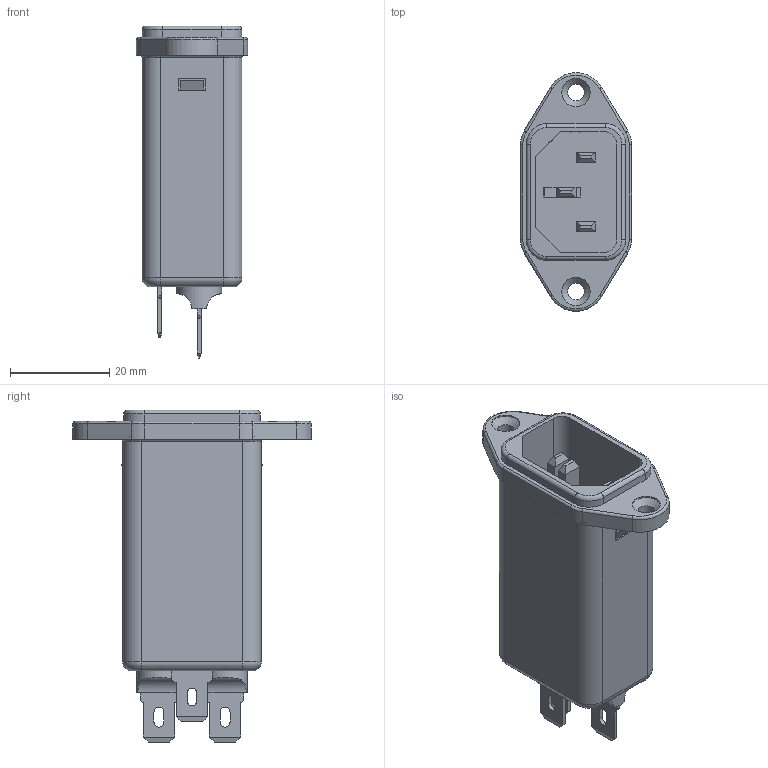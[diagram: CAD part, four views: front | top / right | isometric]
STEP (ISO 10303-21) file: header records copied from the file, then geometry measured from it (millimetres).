
FILE_DESCRIPTION((''),'2;1');
FILE_NAME('D:\_ PRODUCT\FN_PART_FOR_FN9222-XX-07\FN_UPDATE\DB_06 version_Update\3D_inventer\234-176C\FN9222EU-XX-06.stp','2012-01-13T09:41:57',('sayan.penton'),(''),'Autodesk Inventor 2010','Autodesk Inventor 2010','');
FILE_SCHEMA(('AUTOMOTIVE_DESIGN { 1 0 10303 214 1 1 1 1 }'));
Length unit declared in the file: millimetre
Products named in the file (1): Part2
Bounding box: 22.4 x 48 x 66.8 mm (x, y, z)
Volume: 8694.7 mm3; surface area: 19906.5 mm2
Topology: 1 solids, 3 shells, 560 faces, 1629 edges, 1052 vertices
Faces by surface type: plane 404, cylinder 109, bspline 25, torus 20, cone 2
Full cylindrical faces by diameter (mm): 3.3 x2, 4 x2, 5.7 x2, 9 x2, 9.5 x2
Entity records: 19199 total; most frequent: CARTESIAN_POINT 3787, ORIENTED_EDGE 3230, DIRECTION 2957, EDGE_CURVE 1615, VECTOR 1321, LINE 1321, VERTEX_POINT 1050, AXIS2_PLACEMENT_3D 818
